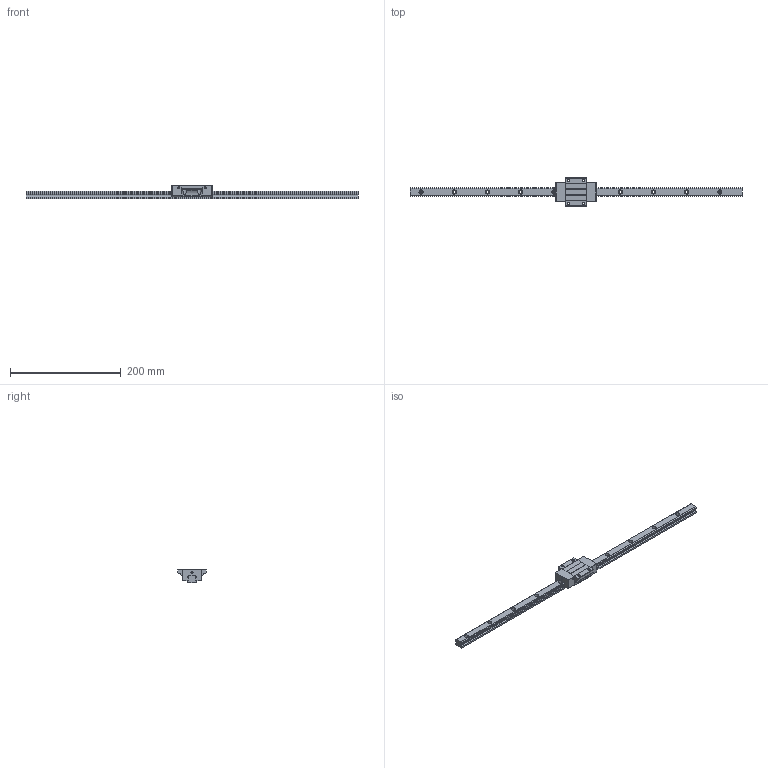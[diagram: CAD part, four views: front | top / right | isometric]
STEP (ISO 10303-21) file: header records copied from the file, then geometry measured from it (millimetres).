
FILE_DESCRIPTION (( 'STEP AP203' ), '1' );
FILE_NAME ('TRS15FN-DU.STEP', '2024-07-11T02:18:55', ( '' ), ( '' ), 'SwSTEP 2.0', 'SolidWorks 2022', '' );
FILE_SCHEMA (( 'CONFIG_CONTROL_DESIGN' ));
Length unit declared in the file: millimetre
Products named in the file (1): TRS15FN-DU
Bounding box: 600 x 52 x 24 mm (x, y, z)
Volume: 145474.6 mm3; surface area: 49883.1 mm2
Topology: 2 solids, 2 shells, 238 faces, 638 edges, 416 vertices
Faces by surface type: cylinder 130, plane 104, sphere 4
Entity records: 8103 total; most frequent: CARTESIAN_POINT 1891, DIRECTION 1306, ORIENTED_EDGE 1268, EDGE_CURVE 634, AXIS2_PLACEMENT_3D 467, VERTEX_POINT 416, LINE 372, VECTOR 372
